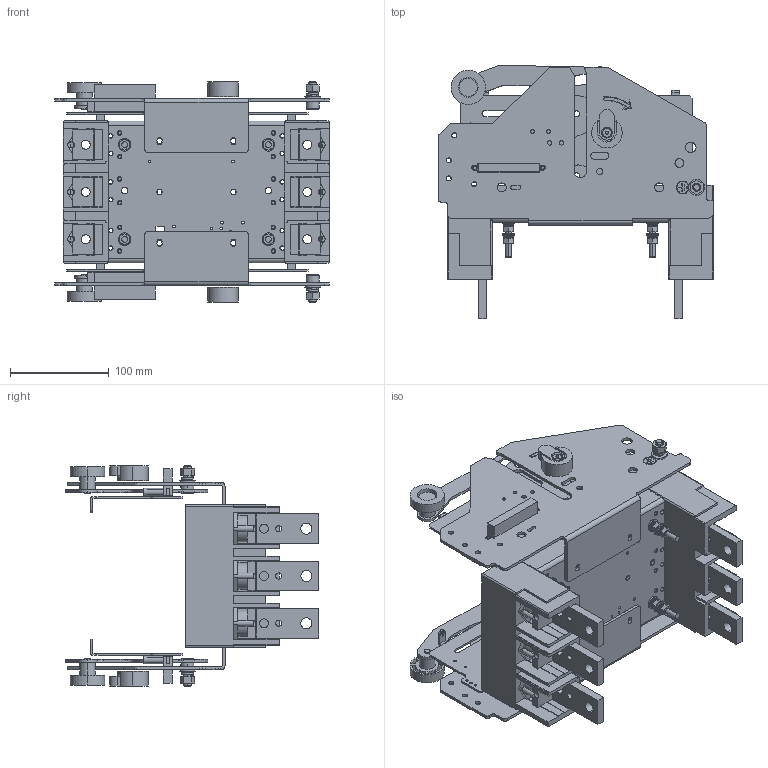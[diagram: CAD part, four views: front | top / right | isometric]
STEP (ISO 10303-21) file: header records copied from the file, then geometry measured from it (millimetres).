
FILE_DESCRIPTION (( 'STEP AP214' ), '1' );
FILE_NAME ('TGM1NE-DOB-630.stp', '2026-07-06T06:46:51', ( '' ), ( '' ), 'SwSTEP 2.0', 'SolidWorks 2024', '' );
FILE_SCHEMA (( 'AUTOMOTIVE_DESIGN' ));
Length unit declared in the file: millimetre
Products named in the file (4): крепления_1.stp; TGM1NE-DOB-630; TGM1NE-630.stp; TGM1NE-DOB-630.stp
Assembly tree (6 placements, depth 3):
  TGM1NE-DOB-630
    TGM1NE-DOB-630.stp
      TGM1NE-630.stp
      крепления_1.stp  x4
Bounding box: 279.1 x 257.08 x 224 mm (x, y, z)
Volume: 1527823.6 mm3; surface area: 661486 mm2
Topology: 63 solids, 81 shells, 2894 faces, 7621 edges, 5030 vertices
Faces by surface type: plane 1478, cylinder 1123, bspline 129, torus 96, cone 48, sphere 20
Entity records: 98945 total; most frequent: CARTESIAN_POINT 25651, DIRECTION 15079, ORIENTED_EDGE 15062, EDGE_CURVE 7531, AXIS2_PLACEMENT_3D 5232, VERTEX_POINT 4970, VECTOR 4615, LINE 4615
